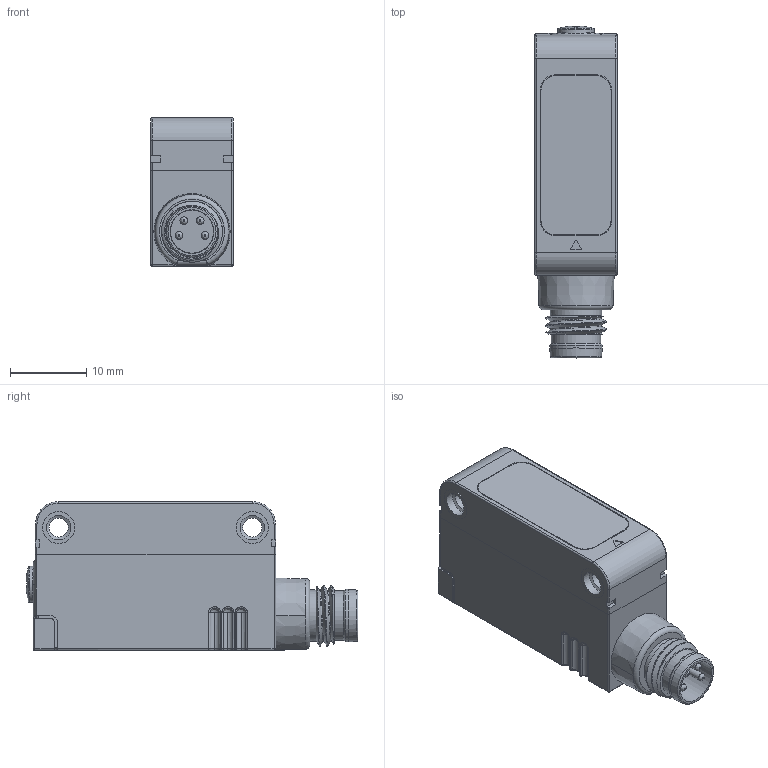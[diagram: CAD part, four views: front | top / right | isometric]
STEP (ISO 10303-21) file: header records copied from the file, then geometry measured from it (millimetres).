
FILE_DESCRIPTION(/* description */ (''),/* implementation_level */ '2;1');
FILE_NAME(/* name */ 'AS008632_00-S3N - DSD.stp',/* time_stamp */ '2024-06-24T18:23:01+02:00',/* author */ (''),/* organization */ (''),/* preprocessor_version */ 'ST-DEVELOPER v16.701',/* originating_system */ 'SIEMENS PLM Software NX 1946',/* authorisation */ '');
FILE_SCHEMA (('AUTOMOTIVE_DESIGN { 1 0 10303 214 3 1 1 1 }'));
Products named in the file (3): AP061286_00-Bottom Cover per DSD 1151; AP061285_00-Optic Box Group per DSD; AS008632_00-S3N - DSD
Assembly tree (2 placements, depth 2):
  AS008632_00-S3N - DSD
    AP061285_00-Optic Box Group per DSD
    AP061286_00-Bottom Cover per DSD 1151
Bounding box: 10.82 x 43.53 x 19.5 mm (x, y, z)
Volume: 7036.8 mm3; surface area: 5938 mm2
Topology: 14 solids, 32 shells, 2414 faces, 6602 edges, 4300 vertices
Faces by surface type: plane 1211, cylinder 568, extrusion 309, bspline 135, torus 89, sphere 54, cone 48
Full cylindrical faces by diameter (mm): 0.5 x2, 0.6 x4, 1 x16, 2.4 x1, 2.5 x2, 3.2 x4, 3.454 x1, 3.8 x1, 4.2 x8, 4.244 x1, 4.5 x2, 4.85 x1, 5.65 x2, 5.75 x1, 6.5 x1, 6.75 x6, 6.9 x1
Entity records: 84960 total; most frequent: CARTESIAN_POINT 26069, ORIENTED_EDGE 12713, DIRECTION 10927, EDGE_CURVE 6420, VERTEX_POINT 4243, VECTOR 4213, LINE 3904, AXIS2_PLACEMENT_3D 3357
